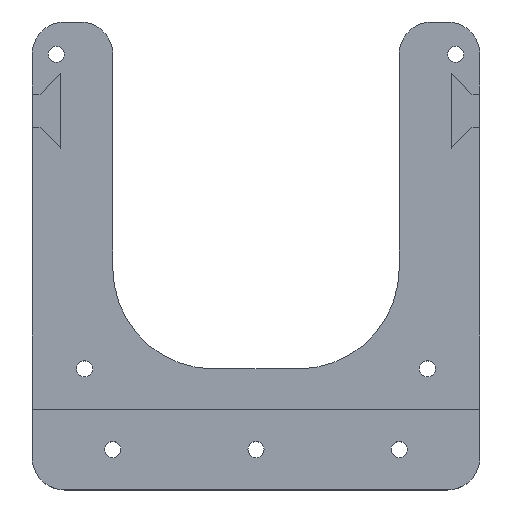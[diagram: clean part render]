
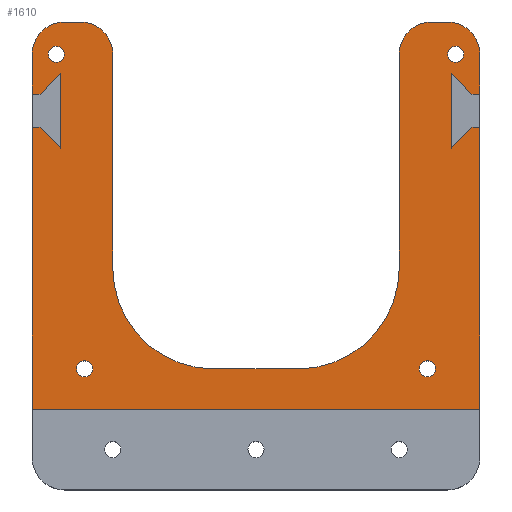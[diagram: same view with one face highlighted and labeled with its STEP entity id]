
A CAD part, top view. The second image highlights one B-rep face of the part: STEP entity #1610.
In plain terms, the highlighted planar face has unit normal (0, 0, 1).
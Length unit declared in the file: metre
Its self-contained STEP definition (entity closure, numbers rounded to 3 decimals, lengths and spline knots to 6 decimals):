
#27=CIRCLE('',#1712,0.008);
#28=CIRCLE('',#1713,0.008);
#29=CIRCLE('',#1714,0.025);
#30=CIRCLE('',#1715,0.025);
#31=CIRCLE('',#1716,0.008);
#32=CIRCLE('',#1717,0.008);
#33=CIRCLE('',#1718,0.002);
#34=CIRCLE('',#1719,0.002);
#35=CIRCLE('',#1720,0.002);
#36=CIRCLE('',#1721,0.002);
#57=ORIENTED_EDGE('',*,*,#517,.F.);
#58=ORIENTED_EDGE('',*,*,#518,.T.);
#59=ORIENTED_EDGE('',*,*,#519,.F.);
#60=ORIENTED_EDGE('',*,*,#520,.T.);
#61=ORIENTED_EDGE('',*,*,#521,.F.);
#62=ORIENTED_EDGE('',*,*,#522,.F.);
#63=ORIENTED_EDGE('',*,*,#523,.F.);
#64=ORIENTED_EDGE('',*,*,#524,.F.);
#65=ORIENTED_EDGE('',*,*,#525,.F.);
#66=ORIENTED_EDGE('',*,*,#526,.T.);
#67=ORIENTED_EDGE('',*,*,#527,.F.);
#68=ORIENTED_EDGE('',*,*,#528,.T.);
#69=ORIENTED_EDGE('',*,*,#529,.F.);
#70=ORIENTED_EDGE('',*,*,#530,.F.);
#71=ORIENTED_EDGE('',*,*,#531,.F.);
#72=ORIENTED_EDGE('',*,*,#532,.F.);
#73=ORIENTED_EDGE('',*,*,#533,.F.);
#74=ORIENTED_EDGE('',*,*,#534,.F.);
#75=ORIENTED_EDGE('',*,*,#535,.F.);
#76=ORIENTED_EDGE('',*,*,#536,.T.);
#77=ORIENTED_EDGE('',*,*,#537,.F.);
#78=ORIENTED_EDGE('',*,*,#538,.T.);
#79=ORIENTED_EDGE('',*,*,#539,.T.);
#80=ORIENTED_EDGE('',*,*,#540,.T.);
#81=ORIENTED_EDGE('',*,*,#541,.T.);
#82=ORIENTED_EDGE('',*,*,#542,.T.);
#83=ORIENTED_EDGE('',*,*,#543,.F.);
#84=ORIENTED_EDGE('',*,*,#544,.F.);
#85=ORIENTED_EDGE('',*,*,#545,.F.);
#86=ORIENTED_EDGE('',*,*,#546,.F.);
#517=EDGE_CURVE('',#747,#748,#905,.T.);
#518=EDGE_CURVE('',#747,#749,#27,.T.);
#519=EDGE_CURVE('',#750,#749,#906,.T.);
#520=EDGE_CURVE('',#750,#751,#28,.T.);
#521=EDGE_CURVE('',#752,#751,#907,.T.);
#522=EDGE_CURVE('',#753,#752,#29,.T.);
#523=EDGE_CURVE('',#754,#753,#908,.T.);
#524=EDGE_CURVE('',#755,#754,#30,.T.);
#525=EDGE_CURVE('',#756,#755,#909,.T.);
#526=EDGE_CURVE('',#756,#757,#31,.T.);
#527=EDGE_CURVE('',#758,#757,#910,.T.);
#528=EDGE_CURVE('',#758,#759,#32,.T.);
#529=EDGE_CURVE('',#760,#759,#911,.T.);
#530=EDGE_CURVE('',#761,#760,#912,.T.);
#531=EDGE_CURVE('',#762,#761,#913,.T.);
#532=EDGE_CURVE('',#763,#762,#914,.T.);
#533=EDGE_CURVE('',#764,#763,#915,.T.);
#534=EDGE_CURVE('',#765,#764,#916,.T.);
#535=EDGE_CURVE('',#766,#765,#917,.T.);
#536=EDGE_CURVE('',#766,#767,#918,.T.);
#537=EDGE_CURVE('',#768,#767,#919,.T.);
#538=EDGE_CURVE('',#768,#769,#920,.T.);
#539=EDGE_CURVE('',#769,#770,#921,.T.);
#540=EDGE_CURVE('',#770,#771,#922,.T.);
#541=EDGE_CURVE('',#771,#772,#923,.T.);
#542=EDGE_CURVE('',#772,#748,#924,.T.);
#543=EDGE_CURVE('',#773,#773,#33,.T.);
#544=EDGE_CURVE('',#774,#774,#34,.T.);
#545=EDGE_CURVE('',#775,#775,#35,.T.);
#546=EDGE_CURVE('',#776,#776,#36,.T.);
#747=VERTEX_POINT('',#2270);
#748=VERTEX_POINT('',#2271);
#749=VERTEX_POINT('',#2273);
#750=VERTEX_POINT('',#2275);
#751=VERTEX_POINT('',#2277);
#752=VERTEX_POINT('',#2279);
#753=VERTEX_POINT('',#2281);
#754=VERTEX_POINT('',#2283);
#755=VERTEX_POINT('',#2285);
#756=VERTEX_POINT('',#2287);
#757=VERTEX_POINT('',#2289);
#758=VERTEX_POINT('',#2291);
#759=VERTEX_POINT('',#2293);
#760=VERTEX_POINT('',#2295);
#761=VERTEX_POINT('',#2297);
#762=VERTEX_POINT('',#2299);
#763=VERTEX_POINT('',#2301);
#764=VERTEX_POINT('',#2303);
#765=VERTEX_POINT('',#2305);
#766=VERTEX_POINT('',#2307);
#767=VERTEX_POINT('',#2309);
#768=VERTEX_POINT('',#2311);
#769=VERTEX_POINT('',#2313);
#770=VERTEX_POINT('',#2315);
#771=VERTEX_POINT('',#2317);
#772=VERTEX_POINT('',#2319);
#773=VERTEX_POINT('',#2322);
#774=VERTEX_POINT('',#2324);
#775=VERTEX_POINT('',#2326);
#776=VERTEX_POINT('',#2328);
#905=LINE('',#2269,#1105);
#906=LINE('',#2274,#1106);
#907=LINE('',#2278,#1107);
#908=LINE('',#2282,#1108);
#909=LINE('',#2286,#1109);
#910=LINE('',#2290,#1110);
#911=LINE('',#2294,#1111);
#912=LINE('',#2296,#1112);
#913=LINE('',#2298,#1113);
#914=LINE('',#2300,#1114);
#915=LINE('',#2302,#1115);
#916=LINE('',#2304,#1116);
#917=LINE('',#2306,#1117);
#918=LINE('',#2308,#1118);
#919=LINE('',#2310,#1119);
#920=LINE('',#2312,#1120);
#921=LINE('',#2314,#1121);
#922=LINE('',#2316,#1122);
#923=LINE('',#2318,#1123);
#924=LINE('',#2320,#1124);
#1105=VECTOR('',#1833,1.);
#1106=VECTOR('',#1836,1.);
#1107=VECTOR('',#1839,1.);
#1108=VECTOR('',#1842,1.);
#1109=VECTOR('',#1845,1.);
#1110=VECTOR('',#1848,1.);
#1111=VECTOR('',#1851,1.);
#1112=VECTOR('',#1852,1.);
#1113=VECTOR('',#1853,1.);
#1114=VECTOR('',#1854,1.);
#1115=VECTOR('',#1855,1.);
#1116=VECTOR('',#1856,1.);
#1117=VECTOR('',#1857,1.);
#1118=VECTOR('',#1858,1.);
#1119=VECTOR('',#1859,1.);
#1120=VECTOR('',#1860,1.);
#1121=VECTOR('',#1861,1.);
#1122=VECTOR('',#1862,1.);
#1123=VECTOR('',#1863,1.);
#1124=VECTOR('',#1864,1.);
#1305=EDGE_LOOP('',(#57,#58,#59,#60,#61,#62,#63,#64,#65,#66,#67,#68,#69,
#70,#71,#72,#73,#74,#75,#76,#77,#78,#79,#80,#81,#82));
#1306=EDGE_LOOP('',(#83));
#1307=EDGE_LOOP('',(#84));
#1308=EDGE_LOOP('',(#85));
#1309=EDGE_LOOP('',(#86));
#1421=FACE_BOUND('',#1305,.T.);
#1422=FACE_BOUND('',#1306,.T.);
#1423=FACE_BOUND('',#1307,.T.);
#1424=FACE_BOUND('',#1308,.T.);
#1425=FACE_BOUND('',#1309,.T.);
#1537=PLANE('',#1711);
#1610=ADVANCED_FACE('',(#1421,#1422,#1423,#1424,#1425),#1537,.T.);
#1711=AXIS2_PLACEMENT_3D('',#2268,#1831,#1832);
#1712=AXIS2_PLACEMENT_3D('',#2272,#1834,#1835);
#1713=AXIS2_PLACEMENT_3D('',#2276,#1837,#1838);
#1714=AXIS2_PLACEMENT_3D('',#2280,#1840,#1841);
#1715=AXIS2_PLACEMENT_3D('',#2284,#1843,#1844);
#1716=AXIS2_PLACEMENT_3D('',#2288,#1846,#1847);
#1717=AXIS2_PLACEMENT_3D('',#2292,#1849,#1850);
#1718=AXIS2_PLACEMENT_3D('',#2321,#1865,#1866);
#1719=AXIS2_PLACEMENT_3D('',#2323,#1867,#1868);
#1720=AXIS2_PLACEMENT_3D('',#2325,#1869,#1870);
#1721=AXIS2_PLACEMENT_3D('',#2327,#1871,#1872);
#1831=DIRECTION('',(0.,0.,1.));
#1832=DIRECTION('',(1.,0.,0.));
#1833=DIRECTION('',(0.,-1.,0.));
#1834=DIRECTION('',(0.,0.,1.));
#1835=DIRECTION('',(1.,0.,0.));
#1836=DIRECTION('',(1.,0.,0.));
#1837=DIRECTION('',(0.,0.,1.));
#1838=DIRECTION('',(1.,0.,0.));
#1839=DIRECTION('',(0.,1.,0.));
#1840=DIRECTION('',(0.,0.,1.));
#1841=DIRECTION('',(1.,0.,0.));
#1842=DIRECTION('',(1.,0.,0.));
#1843=DIRECTION('',(0.,0.,1.));
#1844=DIRECTION('',(1.,0.,0.));
#1845=DIRECTION('',(0.,-1.,0.));
#1846=DIRECTION('',(0.,0.,1.));
#1847=DIRECTION('',(1.,0.,0.));
#1848=DIRECTION('',(1.,0.,0.));
#1849=DIRECTION('',(0.,0.,1.));
#1850=DIRECTION('',(1.,0.,0.));
#1851=DIRECTION('',(0.,1.,0.));
#1852=DIRECTION('',(-1.,0.,0.));
#1853=DIRECTION('',(-0.707,-0.707,0.));
#1854=DIRECTION('',(0.,1.,0.));
#1855=DIRECTION('',(0.707,-0.707,0.));
#1856=DIRECTION('',(1.,0.,0.));
#1857=DIRECTION('',(0.,1.,0.));
#1858=DIRECTION('',(1.,0.,0.));
#1859=DIRECTION('',(0.,-1.,0.));
#1860=DIRECTION('',(-1.,0.,0.));
#1861=DIRECTION('',(-0.707,-0.707,0.));
#1862=DIRECTION('',(0.,1.,0.));
#1863=DIRECTION('',(0.707,-0.707,0.));
#1864=DIRECTION('',(1.,0.,0.));
#1865=DIRECTION('',(0.,0.,1.));
#1866=DIRECTION('',(1.,0.,0.));
#1867=DIRECTION('',(0.,0.,1.));
#1868=DIRECTION('',(1.,0.,0.));
#1869=DIRECTION('',(0.,0.,1.));
#1870=DIRECTION('',(1.,0.,0.));
#1871=DIRECTION('',(0.,0.,1.));
#1872=DIRECTION('',(1.,0.,0.));
#2268=CARTESIAN_POINT('',(0.,-0.03,-0.016));
#2269=CARTESIAN_POINT('',(0.0555,0.0025,-0.016));
#2270=CARTESIAN_POINT('',(0.0555,0.0425,-0.016));
#2271=CARTESIAN_POINT('',(0.0555,0.0326,-0.016));
#2272=CARTESIAN_POINT('',(0.0475,0.0425,-0.016));
#2273=CARTESIAN_POINT('',(0.0475,0.0505,-0.016));
#2274=CARTESIAN_POINT('',(0.0455,0.0505,-0.016));
#2275=CARTESIAN_POINT('',(0.0435,0.0505,-0.016));
#2276=CARTESIAN_POINT('',(0.0435,0.0425,-0.016));
#2277=CARTESIAN_POINT('',(0.0355,0.0425,-0.016));
#2278=CARTESIAN_POINT('',(0.0355,0.02,-0.016));
#2279=CARTESIAN_POINT('',(0.0355,-0.0105,-0.016));
#2280=CARTESIAN_POINT('',(0.0105,-0.0105,-0.016));
#2281=CARTESIAN_POINT('',(0.0105,-0.0355,-0.016));
#2282=CARTESIAN_POINT('',(0.,-0.0355,-0.016));
#2283=CARTESIAN_POINT('',(-0.0105,-0.0355,-0.016));
#2284=CARTESIAN_POINT('',(-0.0105,-0.0105,-0.016));
#2285=CARTESIAN_POINT('',(-0.0355,-0.0105,-0.016));
#2286=CARTESIAN_POINT('',(-0.0355,0.02,-0.016));
#2287=CARTESIAN_POINT('',(-0.0355,0.0425,-0.016));
#2288=CARTESIAN_POINT('',(-0.0435,0.0425,-0.016));
#2289=CARTESIAN_POINT('',(-0.0435,0.0505,-0.016));
#2290=CARTESIAN_POINT('',(-0.0455,0.0505,-0.016));
#2291=CARTESIAN_POINT('',(-0.0475,0.0505,-0.016));
#2292=CARTESIAN_POINT('',(-0.0475,0.0425,-0.016));
#2293=CARTESIAN_POINT('',(-0.0555,0.0425,-0.016));
#2294=CARTESIAN_POINT('',(-0.0555,0.0025,-0.016));
#2295=CARTESIAN_POINT('',(-0.0555,0.0326,-0.016));
#2296=CARTESIAN_POINT('',(-0.054521,0.0326,-0.016));
#2297=CARTESIAN_POINT('',(-0.053541,0.0326,-0.016));
#2298=CARTESIAN_POINT('',(-0.050971,0.035171,-0.016));
#2299=CARTESIAN_POINT('',(-0.0484,0.037741,-0.016));
#2300=CARTESIAN_POINT('',(-0.0484,0.0285,-0.016));
#2301=CARTESIAN_POINT('',(-0.0484,0.019259,-0.016));
#2302=CARTESIAN_POINT('',(-0.050971,0.021829,-0.016));
#2303=CARTESIAN_POINT('',(-0.053541,0.0244,-0.016));
#2304=CARTESIAN_POINT('',(-0.054521,0.0244,-0.016));
#2305=CARTESIAN_POINT('',(-0.0555,0.0244,-0.016));
#2306=CARTESIAN_POINT('',(-0.0555,0.0025,-0.016));
#2307=CARTESIAN_POINT('',(-0.0555,-0.0455,-0.016));
#2308=CARTESIAN_POINT('',(0.,-0.0455,-0.016));
#2309=CARTESIAN_POINT('',(0.0555,-0.0455,-0.016));
#2310=CARTESIAN_POINT('',(0.0555,0.0025,-0.016));
#2311=CARTESIAN_POINT('',(0.0555,0.0244,-0.016));
#2312=CARTESIAN_POINT('',(0.054521,0.0244,-0.016));
#2313=CARTESIAN_POINT('',(0.053541,0.0244,-0.016));
#2314=CARTESIAN_POINT('',(0.050971,0.021829,-0.016));
#2315=CARTESIAN_POINT('',(0.0484,0.019259,-0.016));
#2316=CARTESIAN_POINT('',(0.0484,0.0285,-0.016));
#2317=CARTESIAN_POINT('',(0.0484,0.037741,-0.016));
#2318=CARTESIAN_POINT('',(0.050971,0.035171,-0.016));
#2319=CARTESIAN_POINT('',(0.053541,0.0326,-0.016));
#2320=CARTESIAN_POINT('',(0.054521,0.0326,-0.016));
#2321=CARTESIAN_POINT('',(-0.0425,-0.0355,-0.016));
#2322=CARTESIAN_POINT('',(-0.0405,-0.0355,-0.016));
#2323=CARTESIAN_POINT('',(0.0425,-0.0355,-0.016));
#2324=CARTESIAN_POINT('',(0.0445,-0.0355,-0.016));
#2325=CARTESIAN_POINT('',(0.0495,0.0425,-0.016));
#2326=CARTESIAN_POINT('',(0.0515,0.0425,-0.016));
#2327=CARTESIAN_POINT('',(-0.0495,0.0425,-0.016));
#2328=CARTESIAN_POINT('',(-0.0475,0.0425,-0.016));
